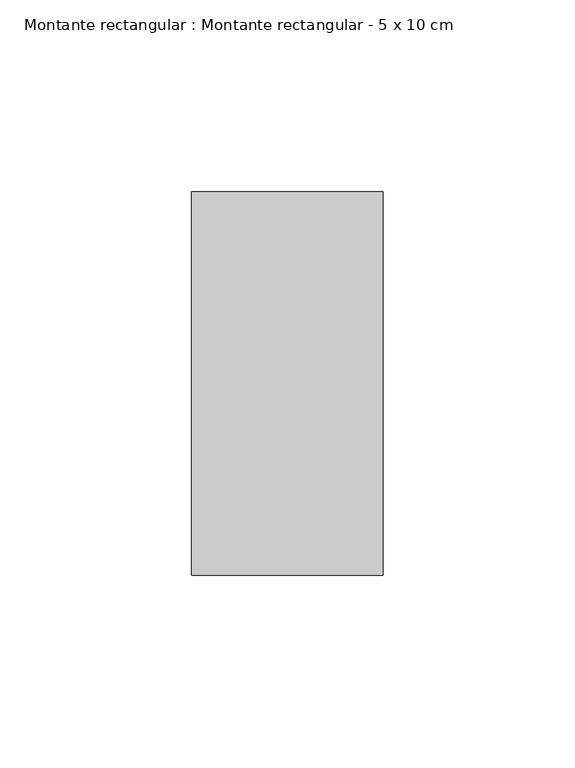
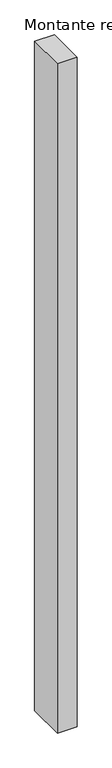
"""IFC4 building model written with IfcOpenShell, lengths in millimetres: member geometry, Montante rectangular : Montante rectangular - 5 x 10 cm."""

import ifcopenshell
import ifcopenshell.guid

model = None  # the IFC model being written
_history = None  # IfcOwnerHistory: only IFC2X3 demands one
_inside = {}  # id of a spatial element -> (the spatial element, [elements in it])
_under = {}  # id of a project, library or spatial element -> (it, [spatial elements below it])
_declared = {}  # id of a project -> (the project, [libraries it declares])
_typed = {}  # id of a type object -> (the type object, [elements of that type])
_made_of = {}  # id of a material, layer set ... -> (it, [elements and type objects made of it])


def new_model(schema):
    """Start an empty IFC model of exactly this schema.

    Asked for "IFC4X3", IfcOpenShell would pick the latest addendum, in which some entities
    have other attributes; the version numbers below select the first issue.
    IFC2X3 requires an IfcOwnerHistory on every rooted entity: one is made here for all.
    """
    global model, _history
    if schema == "IFC4X3":
        model = ifcopenshell.file(schema_version=(4, 3, 0, 0))
    else:
        model = ifcopenshell.file(schema=schema)
    _inside.clear()
    _under.clear()
    _declared.clear()
    _typed.clear()
    _made_of.clear()
    _history = None
    if model.schema == "IFC2X3":
        org = make("IfcOrganization", Name="unknown")
        user = make(
            "IfcPersonAndOrganization",
            ThePerson=make("IfcPerson", FamilyName="unknown"),
            TheOrganization=org,
        )
        app = make(
            "IfcApplication",
            ApplicationDeveloper=org,
            Version="unknown",
            ApplicationFullName="unknown",
            ApplicationIdentifier="unknown",
        )
        _history = make(
            "IfcOwnerHistory",
            OwningUser=user,
            OwningApplication=app,
            ChangeAction="ADDED",
            CreationDate=0,
        )
    return model


def make(cls, **values):
    """One entity of the class cls with the attributes given. An attribute that is None is left unset."""
    return model.create_entity(
        cls, **{name: value for name, value in values.items() if value is not None}
    )


def rooted(cls, **values):
    """An entity with a GlobalId (a new one), such as an element, a storey or a relation."""
    return make(cls, GlobalId=ifcopenshell.guid.new(), OwnerHistory=_history, **values)


def si_unit(unit_type, name, prefix=None):
    """IfcSIUnit, for example si_unit("LENGTHUNIT", "METRE", prefix="MILLI")."""
    return make("IfcSIUnit", UnitType=unit_type, Prefix=prefix, Name=name)


def assignment(units):
    """IfcUnitAssignment: the units of a project."""
    return None if units is None else make("IfcUnitAssignment", Units=units)


def point(xyz):
    """IfcCartesianPoint."""
    return None if xyz is None else make("IfcCartesianPoint", Coordinates=xyz)


def direction(xyz):
    """IfcDirection."""
    return None if xyz is None else make("IfcDirection", DirectionRatios=xyz)


def frame(location, z_axis=None, x_axis=None):
    """IfcAxis2Placement3D, a coordinate frame: its origin and axes. An axis left out is left unset."""
    return make(
        "IfcAxis2Placement3D",
        Location=point(location),
        Axis=direction(z_axis),
        RefDirection=direction(x_axis),
    )


def origin():
    """The frame at (0, 0, 0) with its axes left unset."""
    return frame((0.0, 0.0, 0.0))


def place(relative_to, where):
    """IfcLocalPlacement: puts the frame where relative to a parent placement (None: the world)."""
    return make(
        "IfcLocalPlacement", PlacementRelTo=relative_to, RelativePlacement=where
    )


def context(
    kind, dimensions, precision=None, world=None, true_north=None, identifier=None
):
    """IfcGeometricRepresentationContext, for example the 3D "Model" context."""
    return make(
        "IfcGeometricRepresentationContext",
        ContextIdentifier=identifier,
        ContextType=kind,
        CoordinateSpaceDimension=dimensions,
        Precision=precision,
        WorldCoordinateSystem=world,
        TrueNorth=true_north,
    )


def project(units=None, contexts=None):
    """IfcProject with its units and contexts."""
    return rooted(
        "IfcProject",
        Name="project",
        RepresentationContexts=contexts,
        UnitsInContext=assignment(units),
    )


def spatial(cls, under=None, at=None, **own):
    """A site, building, storey or space (cls), placed at a placement, below another one or the project."""
    s = rooted(cls, ObjectPlacement=at, **own)
    if under is not None:
        _under.setdefault(under.id(), (under, []))[1].append(s)
    return s


def polyline(points):
    """IfcPolyline through the points."""
    return make("IfcPolyline", Points=[point(p) for p in points])


def outline(outer, holes=None, kind="AREA"):
    """IfcArbitraryClosedProfileDef: a profile drawn as a closed curve; with holes, ...WithVoids."""
    if holes is None:
        return make("IfcArbitraryClosedProfileDef", ProfileType=kind, OuterCurve=outer)
    return make(
        "IfcArbitraryProfileDefWithVoids",
        ProfileType=kind,
        OuterCurve=outer,
        InnerCurves=holes,
    )


def extrude(swept, where, along, depth):
    """IfcExtrudedAreaSolid: the profile swept, set in the frame where, extruded along a direction by depth."""
    return make(
        "IfcExtrudedAreaSolid",
        SweptArea=swept,
        Position=where,
        ExtrudedDirection=direction(along),
        Depth=depth,
    )


def shape(context_of_items, identifier, shape_type, items):
    """IfcShapeRepresentation: the items that make up one representation, for example the "Body"."""
    return make(
        "IfcShapeRepresentation",
        ContextOfItems=context_of_items,
        RepresentationIdentifier=identifier,
        RepresentationType=shape_type,
        Items=items,
    )


def source(mapping_origin, context_of_items, identifier, shape_type, items):
    """IfcRepresentationMap: a shape defined once, which mapped items show again and again."""
    return make(
        "IfcRepresentationMap",
        MappingOrigin=mapping_origin,
        MappedRepresentation=shape(context_of_items, identifier, shape_type, items),
    )


def transform(
    local_origin,
    x_axis=None,
    y_axis=None,
    z_axis=None,
    scale=None,
    scale2=None,
    scale3=None,
    uniform=True,
):
    """IfcCartesianTransformationOperator3D, or its non-uniform kind. x_axis, y_axis, z_axis: its Axis1, 2, 3."""
    if uniform:
        return make(
            "IfcCartesianTransformationOperator3D",
            Axis1=direction(x_axis),
            Axis2=direction(y_axis),
            LocalOrigin=point(local_origin),
            Scale=scale,
            Axis3=direction(z_axis),
        )
    return make(
        "IfcCartesianTransformationOperator3DnonUniform",
        Axis1=direction(x_axis),
        Axis2=direction(y_axis),
        LocalOrigin=point(local_origin),
        Scale=scale,
        Axis3=direction(z_axis),
        Scale2=scale2,
        Scale3=scale3,
    )


def mapped(mapping_source, mapping_target):
    """IfcMappedItem: shows the shape of a source again, moved by a transform."""
    return make(
        "IfcMappedItem", MappingSource=mapping_source, MappingTarget=mapping_target
    )


def made_of(thing, what):
    """Note that an element or type object is made of a material, layer set ...; save() writes the relation."""
    if what is not None:
        _made_of.setdefault(what.id(), (what, []))[1].append(thing)
    return thing


def element(
    cls,
    number,
    at=None,
    inside=None,
    cuts=None,
    type_object=None,
    material=None,
    context=None,
    identifier="Body",
    shape_type=None,
    held_by="IfcProductDefinitionShape",
    body=None,
    shapes=None,
    **own,
):
    """One element of the class cls, such as IfcWall. Its Tag is "e" and its number.

    at: its placement. inside: the storey or other place that contains it. cuts: it is an
    opening in that element (IfcRelVoidsElement). A single representation is given by context,
    identifier, shape_type and body (its items); several are given by shapes. held_by: the class
    of the entity that holds the representations. save() writes the other relations.
    """
    e = rooted(cls, Tag="e%d" % number, ObjectPlacement=at, **own)
    if body is not None:
        shapes = [shape(context, identifier, shape_type, body)]
    if shapes is not None:
        e.Representation = make(held_by, Representations=shapes)
    if inside is not None:
        _inside.setdefault(inside.id(), (inside, []))[1].append(e)
    if cuts is not None:
        rooted(
            "IfcRelVoidsElement", RelatingBuildingElement=cuts, RelatedOpeningElement=e
        )
    if type_object is not None:
        _typed.setdefault(type_object.id(), (type_object, []))[1].append(e)
    return made_of(e, material)


def aggregate(whole, parts):
    """IfcRelAggregates: a whole, such as a stair, and the parts it consists of."""
    return rooted("IfcRelAggregates", RelatingObject=whole, RelatedObjects=parts)


def save(model, path):
    """Write the relations noted so far, then the file.

    IfcRelAggregates (storeys below a building ...), IfcRelContainedInSpatialStructure (elements
    in a storey), IfcRelDefinesByType, IfcRelAssociatesMaterial and IfcRelDeclares: one each for
    every whole, place, type object, material and project.
    """
    for whole, parts in _under.values():
        aggregate(whole, parts)
    for where, things in _inside.values():
        rooted(
            "IfcRelContainedInSpatialStructure",
            RelatedElements=things,
            RelatingStructure=where,
        )
    for kind, things in _typed.values():
        rooted("IfcRelDefinesByType", RelatedObjects=things, RelatingType=kind)
    for what, things in _made_of.values():
        rooted("IfcRelAssociatesMaterial", RelatedObjects=things, RelatingMaterial=what)
    for by, libraries in _declared.values():
        rooted("IfcRelDeclares", RelatingContext=by, RelatedDefinitions=libraries)
    model.write(path)


def montante_rectangular_montante_rectangular_5_x_10_cm_f511fc44(model_context):
    return source(origin(), model_context, "Body", "SweptSolid", [
        extrude(outline(polyline([(25.0, 50.0), (25.0, -50.0), (-25.0, -50.0), (-25.0, 50.0), (25.0, 50.0)])), frame((0.0, 0.0, -1798.5320717), z_axis=(0.0, 0.0, 1.0), x_axis=(1.0, 0.0, 0.0)), (0.0, 0.0, 1.0), 1798.5320717),
    ])


if __name__ == "__main__":
    model = new_model("IFC4")
    model_context = context("Model", 3, world=origin())
    ifc_project = project(units=[si_unit("LENGTHUNIT", "METRE", prefix="MILLI")], contexts=[model_context])
    site = spatial("IfcSite", under=ifc_project)
    building = spatial("IfcBuilding", under=site)
    placement = place(None, origin())
    montante_rectangular_montante_rectangular_5_x_10_cm_shape = montante_rectangular_montante_rectangular_5_x_10_cm_f511fc44(model_context)
    element("IfcMember", 1, ObjectType="Montante rectangular : Montante rectangular - 5 x 10 cm", at=placement, inside=building, context=model_context, shape_type="MappedRepresentation", body=[
        mapped(montante_rectangular_montante_rectangular_5_x_10_cm_shape, transform((0.0, 0.0, 0.0), x_axis=(1.0, 0.0, 0.0), y_axis=(0.0, 1.0, 0.0), z_axis=(0.0, 0.0, 1.0))),
    ])
    save(model, "model.ifc")
